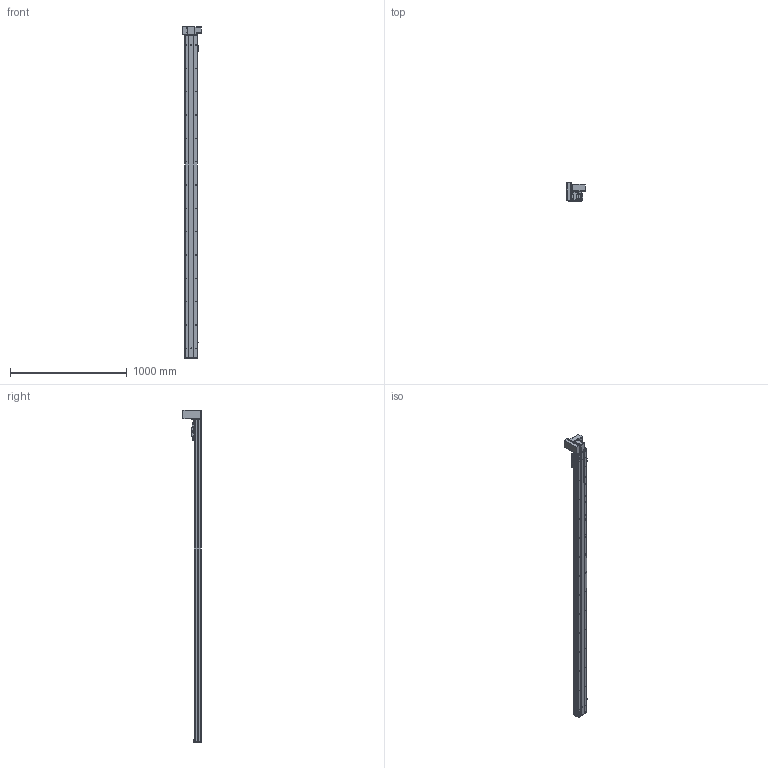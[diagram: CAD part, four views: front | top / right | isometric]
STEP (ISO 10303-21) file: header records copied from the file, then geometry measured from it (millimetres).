
FILE_DESCRIPTION (( 'STEP AP203' ), '1' );
FILE_NAME ('Y10CB-D90-S2500-UL-P400W.STEP', '2020-02-16T08:20:49', ( '微软用户' ), ( '微软中国' ), 'SwSTEP 2.0', 'SolidWorks 2017', '' );
FILE_SCHEMA (( 'CONFIG_CONTROL_DESIGN' ));
Length unit declared in the file: millimetre
Products named in the file (18): Y10B-々湍喘謫眊楊擘啣--; 10CB-耜裔; 0B-萇儂楊擘啣; Y135C-陔俋离換覜結え-; san松下电机400不带刹车----; Y100-135俋离換覜ん--; 0B-源倛裔啣; Y10B-耜蚾蟀諉啣----; 0B-埴倛裔啣; 00B-俋欶BM--; 10CB-詩湍-; Y10B--々湍喘謫眊--666; Y10CB- 掛极耜裔啣-毀---; 0CB-雄赽釱---; Y10CB-D90-S2500-UL-P400W; Y10C---詩湍揤啣; 0Cb-俋欶---; 10CB9-掛极
Assembly tree (21 placements, depth 2):
  Y10CB-D90-S2500-UL-P400W
    0CB-雄赽釱---
    0Cb-俋欶---
    Y10B-々湍喘謫眊楊擘啣--
    0B-萇儂楊擘啣
    san松下电机400不带刹车----
    0B-源倛裔啣
    0B-埴倛裔啣
    10CB-詩湍-
    Y10CB- 掛极耜裔啣-毀---  x2
    Y10C---詩湍揤啣  x2
    10CB9-掛极
    10CB-耜裔
    Y135C-陔俋离換覜結え-
    Y100-135俋离換覜ん--  x3
    Y10B-耜蚾蟀諉啣----
    00B-俋欶BM--
    Y10B--々湍喘謫眊--666
Bounding box: 157 x 155.5 x 2846 mm (x, y, z)
Volume: 5753531 mm3; surface area: 2732010.6 mm2
Topology: 21 solids, 21 shells, 1074 faces, 2923 edges, 1898 vertices
Faces by surface type: cylinder 559, plane 491, cone 24
Entity records: 34412 total; most frequent: CARTESIAN_POINT 6505, DIRECTION 5474, ORIENTED_EDGE 5316, EDGE_CURVE 2658, AXIS2_PLACEMENT_3D 1957, VERTEX_POINT 1724, LINE 1560, VECTOR 1560
